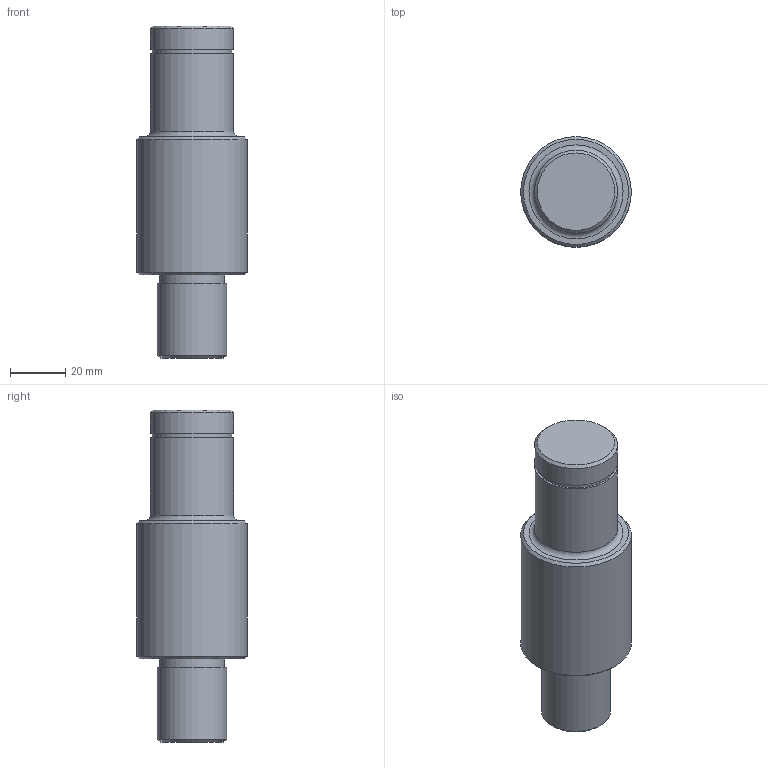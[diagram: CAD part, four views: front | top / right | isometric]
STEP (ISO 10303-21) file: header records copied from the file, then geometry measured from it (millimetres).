
FILE_DESCRIPTION(('FreeCAD Model'),'2;1');
FILE_NAME('Open CASCADE Shape Model','2026-10-08T21:41:43',('FreeCAD'),( 'FreeCAD'),'Open CASCADE STEP processor 7.8','FreeCAD','Unknown');
FILE_SCHEMA(('AUTOMOTIVE_DESIGN { 1 0 10303 214 1 1 1 1 }'));
Length unit declared in the file: millimetre
Products named in the file (1): Open CASCADE STEP translator 7.8 1
Bounding box: 40 x 40 x 120 mm (x, y, z)
Volume: 105433.3 mm3; surface area: 14811.8 mm2
Topology: 1 solids, 1 shells, 18 faces, 28 edges, 17 vertices
Faces by surface type: plane 7, cylinder 6, cone 4, torus 1
Full cylindrical faces by diameter (mm): 23.5 x1, 25 x1, 28.6 x1, 30 x2, 40 x1
Entity records: 420 total; most frequent: DIRECTION 84, CARTESIAN_POINT 64, ORIENTED_EDGE 56, AXIS2_PLACEMENT_3D 37, EDGE_CURVE 28, FACE_BOUND 23, EDGE_LOOP 23, ADVANCED_FACE 18
